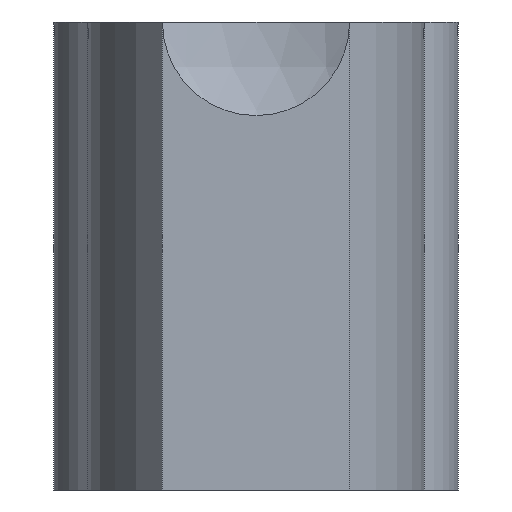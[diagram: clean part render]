
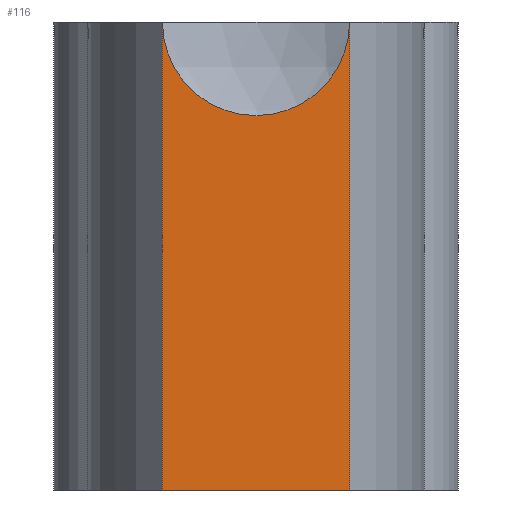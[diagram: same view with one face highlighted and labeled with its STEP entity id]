
A CAD part, front view. The second image highlights one B-rep face of the part: STEP entity #116.
In plain terms, the highlighted planar face has unit normal (0, -1, 0).
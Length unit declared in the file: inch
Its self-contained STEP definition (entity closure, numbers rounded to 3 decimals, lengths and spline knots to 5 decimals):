
#8 = PLANE ( 'NONE',  #639 ) ;
#12 = DIRECTION ( 'NONE',  ( 0., 0., 1. ) ) ;
#14 = ORIENTED_EDGE ( 'NONE', *, *, #20, .T. ) ;
#20 = EDGE_CURVE ( 'NONE', #413, #32, #230, .T. ) ;
#25 = CARTESIAN_POINT ( 'NONE',  ( 0.5, 0., 0.625 ) ) ;
#28 = CARTESIAN_POINT ( 'NONE',  ( 0., 0., 0. ) ) ;
#32 = VERTEX_POINT ( 'NONE', #447 ) ;
#35 = VECTOR ( 'NONE', #530, 39.37008 ) ;
#38 = VERTEX_POINT ( 'NONE', #513 ) ;
#63 = VECTOR ( 'NONE', #379, 39.37008 ) ;
#69 = CARTESIAN_POINT ( 'NONE',  ( 0.375, 0., 0. ) ) ;
#81 = VECTOR ( 'NONE', #12, 39.37008 ) ;
#113 = CARTESIAN_POINT ( 'NONE',  ( 0.625, 0., 0. ) ) ;
#116 = ADVANCED_FACE ( 'NONE', ( #148 ), #8, .F. ) ;
#119 = LINE ( 'NONE', #69, #81 ) ;
#130 = DIRECTION ( 'NONE',  ( 0., 0., 1. ) ) ;
#148 = FACE_OUTER_BOUND ( 'NONE', #299, .T. ) ;
#163 = CARTESIAN_POINT ( 'NONE',  ( 0., 0., 0.625 ) ) ;
#222 = ORIENTED_EDGE ( 'NONE', *, *, #718, .F. ) ;
#230 = LINE ( 'NONE', #113, #63 ) ;
#263 = CARTESIAN_POINT ( 'NONE',  ( 0.625, 0., 0. ) ) ;
#292 = DIRECTION ( 'NONE',  ( 0., -1., 0. ) ) ;
#299 = EDGE_LOOP ( 'NONE', ( #14, #222, #678, #454, #680 ) ) ;
#314 = EDGE_CURVE ( 'NONE', #726, #413, #342, .T. ) ;
#326 = DIRECTION ( 'NONE',  ( 0., 1., 0. ) ) ;
#341 = CARTESIAN_POINT ( 'NONE',  ( 0.5, 0., 0.625 ) ) ;
#342 = LINE ( 'NONE', #28, #35 ) ;
#367 = AXIS2_PLACEMENT_3D ( 'NONE', #341, #292, #397 ) ;
#376 = VERTEX_POINT ( 'NONE', #398 ) ;
#379 = DIRECTION ( 'NONE',  ( 0., 0., 1. ) ) ;
#397 = DIRECTION ( 'NONE',  ( 0., 0., -1. ) ) ;
#398 = CARTESIAN_POINT ( 'NONE',  ( 0.375, 0., 0.625 ) ) ;
#413 = VERTEX_POINT ( 'NONE', #263 ) ;
#447 = CARTESIAN_POINT ( 'NONE',  ( 0.625, 0., 0.625 ) ) ;
#454 = ORIENTED_EDGE ( 'NONE', *, *, #646, .F. ) ;
#466 = DIRECTION ( 'NONE',  ( 0., 0., -1. ) ) ;
#484 = CIRCLE ( 'NONE', #367, 0.125 ) ;
#513 = CARTESIAN_POINT ( 'NONE',  ( 0.5, 0., 0.5 ) ) ;
#519 = DIRECTION ( 'NONE',  ( 0., -1., 0. ) ) ;
#525 = CARTESIAN_POINT ( 'NONE',  ( 0.375, 0., 0. ) ) ;
#530 = DIRECTION ( 'NONE',  ( 1., 0., 0. ) ) ;
#576 = AXIS2_PLACEMENT_3D ( 'NONE', #25, #519, #466 ) ;
#597 = CIRCLE ( 'NONE', #576, 0.125 ) ;
#639 = AXIS2_PLACEMENT_3D ( 'NONE', #163, #326, #130 ) ;
#646 = EDGE_CURVE ( 'NONE', #726, #376, #119, .T. ) ;
#677 = EDGE_CURVE ( 'NONE', #376, #38, #484, .T. ) ;
#678 = ORIENTED_EDGE ( 'NONE', *, *, #677, .F. ) ;
#680 = ORIENTED_EDGE ( 'NONE', *, *, #314, .T. ) ;
#718 = EDGE_CURVE ( 'NONE', #38, #32, #597, .T. ) ;
#726 = VERTEX_POINT ( 'NONE', #525 ) ;
